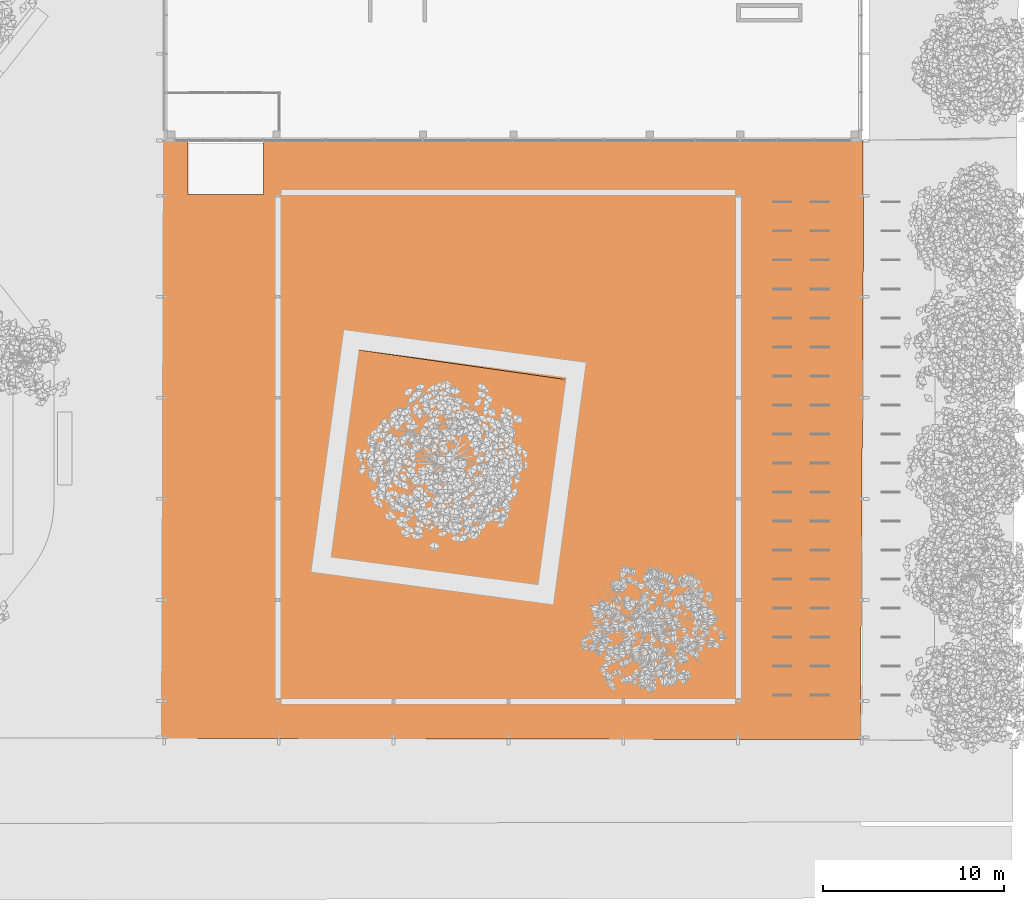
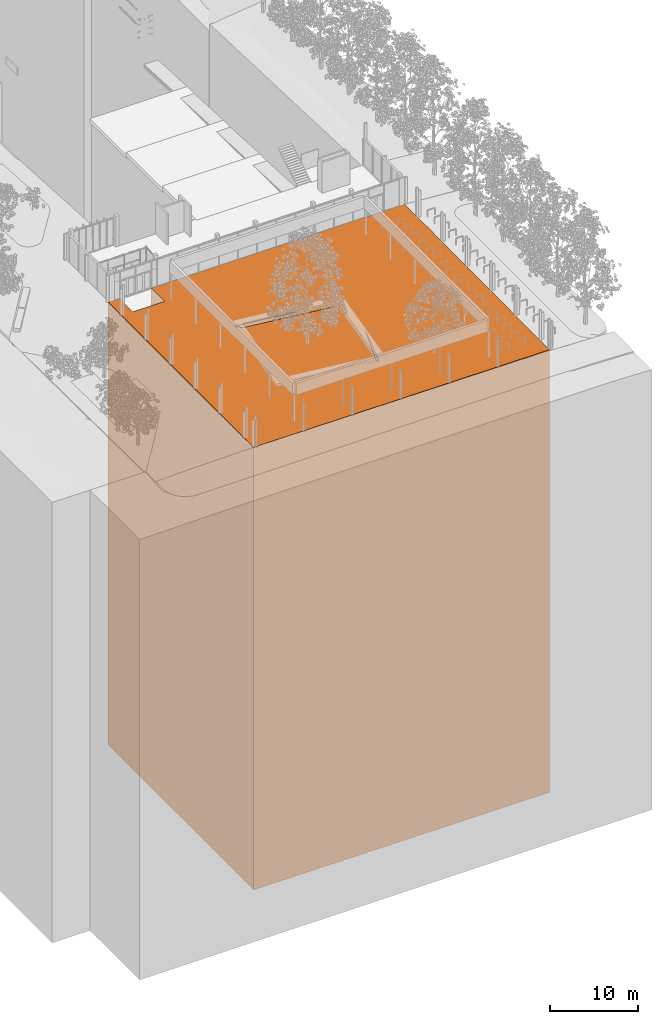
# One storey, part 50 of 69: 1 proxy.
"""IFC2X3 building model written with IfcOpenShell, lengths in millimetres."""

from ifc_helpers import new_model, entity, si_unit, converted_unit, derived_unit, money_unit, direction, frame, origin_with_axes, place, context, subcontext, project, spatial, faceted_brep, material, type_object, element, save


model = new_model("IFC2X3")

# Units and contexts
model_context = context("Model", 3, precision=0.01, world=origin_with_axes(), true_north=direction((0.0, 1.0)))
body_context = subcontext(model_context, "Body", "Model", "MODEL_VIEW")
ifc_project = project(units=[si_unit("LENGTHUNIT", "METRE", prefix="MILLI"), si_unit("AREAUNIT", "SQUARE_METRE"), si_unit("VOLUMEUNIT", "CUBIC_METRE"), converted_unit("PLANEANGLEUNIT", "DEGREE", entity("IfcPlaneAngleMeasure", 0.0174532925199), si_unit("PLANEANGLEUNIT", "RADIAN"), dimensions=[0, 0, 0, 0, 0, 0, 0]), si_unit("SOLIDANGLEUNIT", "STERADIAN"), money_unit("EUR"), converted_unit("TIMEUNIT", "Year", entity("IfcTimeMeasure", 31556926.0), si_unit("TIMEUNIT", "SECOND"), dimensions=[0, 0, 1, 0, 0, 0, 0]), si_unit("MASSUNIT", "GRAM", prefix="KILO"), si_unit("THERMODYNAMICTEMPERATUREUNIT", "DEGREE_CELSIUS"), si_unit("LUMINOUSINTENSITYUNIT", "LUMEN"), si_unit("ENERGYUNIT", "JOULE", prefix="MEGA"), derived_unit("THERMALCONDUCTANCEUNIT", [(si_unit("POWERUNIT", "WATT"), 1), (si_unit("LENGTHUNIT", "METRE"), -1), (si_unit("THERMODYNAMICTEMPERATUREUNIT", "KELVIN"), -1)]), derived_unit("SPECIFICHEATCAPACITYUNIT", [(si_unit("ENERGYUNIT", "JOULE"), 1), (si_unit("MASSUNIT", "GRAM", prefix="KILO"), -1), (si_unit("THERMODYNAMICTEMPERATUREUNIT", "KELVIN"), -1)]), derived_unit("MASSDENSITYUNIT", [(si_unit("MASSUNIT", "GRAM", prefix="KILO"), 1), (si_unit("VOLUMEUNIT", "CUBIC_METRE"), -1)])], contexts=[model_context])

# Site, building, storey
site_placement = place(None, origin_with_axes())
site = spatial("IfcSite", under=ifc_project, at=site_placement, Name="Puškini 31, Narva", CompositionType="ELEMENT")
building_placement = place(site_placement, origin_with_axes())
building = spatial("IfcBuilding", under=site, at=building_placement, Name="Narva Riigigümnaasium", CompositionType="ELEMENT")
storey_placement = place(building_placement, origin_with_axes())
storey = spatial("IfcBuildingStorey", under=building, at=storey_placement, Name="1.korrus 0.00", CompositionType="ELEMENT", Elevation=0.0)

# Proxy
ifc_material = material(Name="Klinkertellis")
building_element_proxy_type = type_object("IfcBuildingElementProxyType", Name="Klinkertellis", PredefinedType="NOTDEFINED")
proxy_placement = place(storey_placement, frame((15739.519275, 116942.878839, -61100.0), z_axis=(0.0, 0.0, 1.0), x_axis=(1.0, 0.0, 0.0)))
element("IfcBuildingElementProxy", 1, at=proxy_placement, inside=storey, type_object=building_element_proxy_type, material=ifc_material, Name="Klinkertellis-väljak", context=body_context, shape_type="Brep", body=[
    faceted_brep([(5674.16440498, 30057.1211618, 61071.6030512), (17289.22283, 20988.5976126, 61000.0), (5674.16440498, 32524.435292, 61082.6697332), (10089.9153011, 21937.0338171, 61000.0), (5674.16440498, 33054.5833512, 61100.0), (5674.16440498, 30057.1211618, 0.0), (5674.16440498, 33054.5833512, 0.0), (10088.911443, 21937.2315217, 61000.0), (10947.6119763, 21476.9041043, 60800.0), (32432.4761274, 29978.4948097, 61000.0), (1524.16441197, 30057.1211618, 0.0), (1524.16441197, 30057.1211618, 61085.4140488), (2769.81329969, 30057.1211618, 61073.0145773), (4347.51997153, 30057.1211618, 61075.1355585), (38720.6861573, 33033.5872908, 61100.0), (38720.6861573, 33033.5872908, 0.0), (64.7513232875, 33058.1472838, 0.0), (1524.16441197, 33057.2200478, 0.0), (38743.8125579, 27540.1413165, 0.0), (38588.2613111, 0.0, 0.0), (0.0, 62.0856661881, 0.0), (8282.50770341, 9231.27228738, 61000.0), (22403.5168855, 19838.4596222, 60800.0), (23535.0246642, 20686.8051572, 61000.0), (32372.7626519, 21931.2456973, 61000.0), (32466.267371, 28214.9323438, 61000.0), (1524.16441197, 33057.2200478, 61100.0), (1524.16441197, 32919.2902849, 61095.4911471), (1524.16441197, 32035.5058195, 61091.5270951), (1524.16441197, 31439.1913655, 61085.4425016), (64.7513232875, 33058.1472838, 61100.0), (54.7010463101, 27936.7143682, 61100.0), (38743.8125579, 27540.1413165, 61100.0), (38588.2613111, 0.0, 61100.0), (19917.895816, 30.039240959, 61100.0), (18527.1447779, 32.2768567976, 61100.0), (0.0, 62.0856661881, 61100.0), (7.57269230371, 3920.98783492, 61100.0), (9405.68690953, 10074.8355057, 60800.0), (20764.8349827, 8380.8946819, 60800.0), (22567.6588873, 13923.0420434, 61000.0), (24021.6567544, 963.333010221, 61000.0), (20846.2913906, 7777.75108592, 61000.0), (14335.3392251, 1000.72455488, 61000.0), (5706.67937885, 2760.99840724, 61000.0)], [[[0, 1, 2]], [[0, 3, 1]], [[2, 1, 4]], [[5, 0, 2, 4, 6]], [[3, 0, 7]], [[8, 1, 3]], [[4, 1, 9]], [[10, 11, 12, 13, 0, 5]], [[6, 4, 14, 15]], [[16, 17, 10, 5, 6, 15, 18, 19, 20]], [[13, 7, 0]], [[7, 21, 3]], [[1, 8, 22]], [[8, 3, 21]], [[23, 24, 25, 9, 1]], [[14, 4, 9]], [[17, 26, 27, 28, 29, 11, 10]], [[11, 29, 30, 31, 12]], [[12, 31, 13]], [[15, 14, 32, 18]], [[16, 30, 26, 17]], [[18, 32, 33, 19]], [[19, 33, 34, 35, 36, 20]], [[20, 36, 37, 31, 30, 16]], [[31, 7, 13]], [[21, 7, 31]], [[38, 39, 22, 8]], [[1, 22, 23]], [[38, 8, 21]], [[23, 40, 24]], [[24, 32, 25]], [[9, 25, 32]], [[14, 9, 32]], [[26, 30, 27]], [[27, 30, 28]], [[28, 30, 29]], [[33, 32, 24]], [[34, 33, 41]], [[34, 42, 35]], [[43, 36, 35]], [[36, 44, 37]], [[37, 21, 31]], [[39, 38, 42]], [[40, 23, 22, 39]], [[38, 21, 42]], [[33, 24, 40]], [[33, 40, 41]], [[34, 41, 42]], [[35, 42, 43]], [[44, 36, 43]], [[21, 37, 44]], [[39, 42, 40]], [[43, 42, 21]], [[41, 40, 42]], [[44, 43, 21]]]),
])

save(model, "model.ifc")
